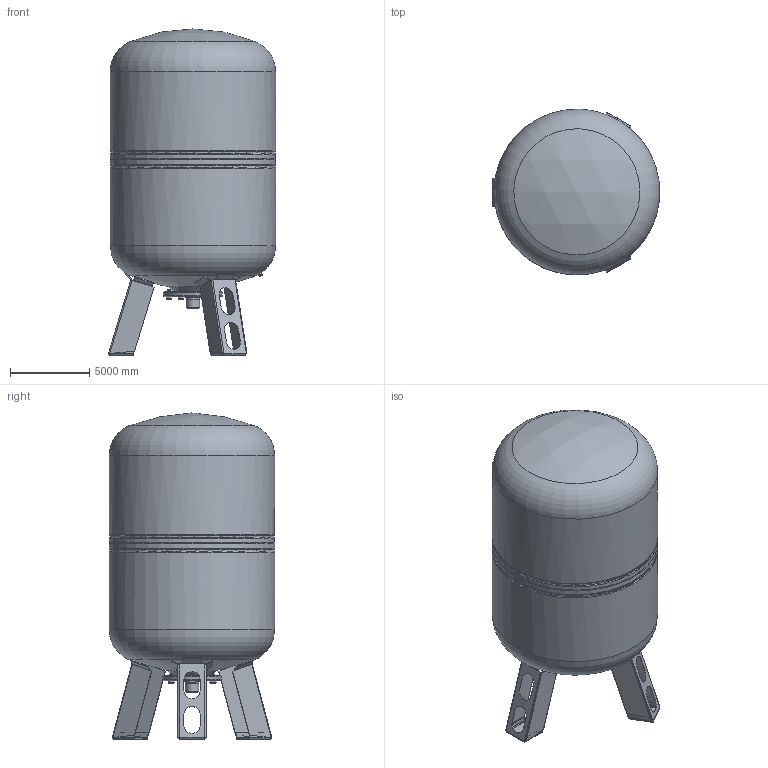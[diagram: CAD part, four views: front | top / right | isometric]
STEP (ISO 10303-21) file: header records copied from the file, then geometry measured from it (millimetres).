
FILE_DESCRIPTION(('STEP AP214'), '1');
FILE_NAME('WAV-80', '', ('UNSPECIFIED'), ('UNSPECIFIED'), 'ASCON STEP Converter 1.3', 'ASCON Math Kernel', '');
FILE_SCHEMA(('AUTOMOTIVE_DESIGN { 1 0 10303 214 3 1 1}'));
Length unit declared in the file: millimetre
Bounding box: 10529.4 x 10415.08 x 20523.2 mm (x, y, z)
Volume: 1261806085346.5 mm3; surface area: 779776762.9 mm2
Topology: 4 solids, 4 shells, 388 faces, 1064 edges, 712 vertices
Faces by surface type: bspline 234, cylinder 92, cone 35, torus 25, sphere 2
Full cylindrical faces by diameter (mm): 101.6 x7, 139.7 x1, 203.2 x7, 304.8 x3, 355.599 x6, 688.34 x1, 844.55 x1, 850.9 x1, 3556 x1, 10414 x4
Entity records: 28366 total; most frequent: CARTESIAN_POINT 16285, ORIENTED_EDGE 1962, DIRECTION 1485, EDGE_CURVE 981, VERTEX_POINT 710, EDGE_LOOP 515, LINE 507, VECTOR 507
